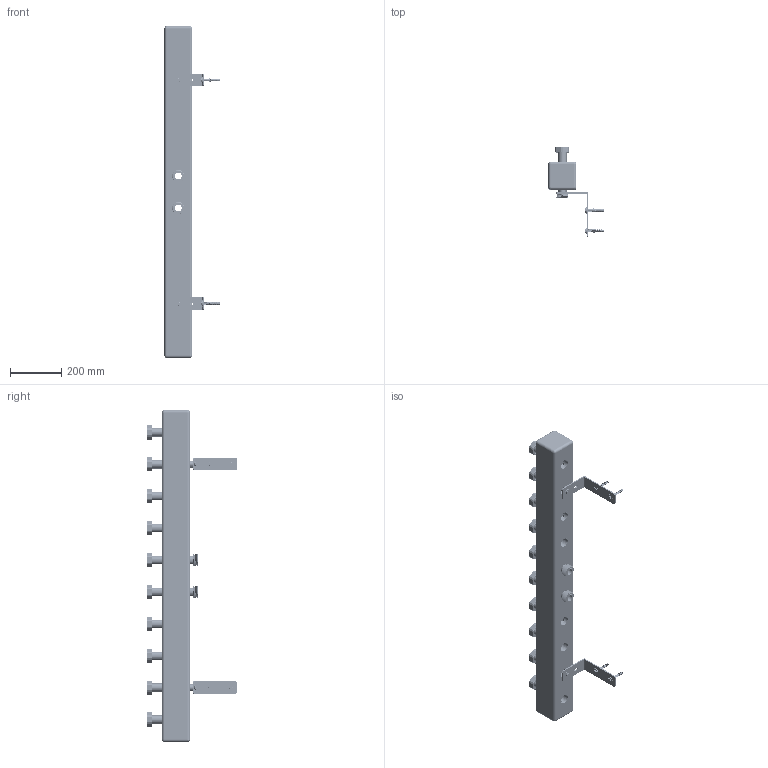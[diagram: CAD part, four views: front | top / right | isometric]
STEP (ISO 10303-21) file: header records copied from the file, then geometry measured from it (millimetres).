
FILE_DESCRIPTION((''),'2;1');
FILE_NAME('08_013_502_ASM','2021-04-14T',('Bial5'),('Audax d.o.o.'),'CREO PARAMETRIC BY PTC INC, 2017020','CREO PARAMETRIC BY PTC INC, 2017020','');
FILE_SCHEMA(('CONFIG_CONTROL_DESIGN'));
Length unit declared in the file: millimetre
Products named in the file (23): 08_013_011; 08_013_012; 08_013_004; 08_001_025; 08_001_006; 08_013_015; 08_013_020; 08_013_021; 08_001_017; 08_001_018; 08_001_038; 08_013_017; 08_001_033; DIN9021-8; SCREW_DIN_933-M8X25-8_8-A; GUMA_NOSILCA_M8; DIN571_8X60_CUZN; ZIDNI_VLOZEK_10; 08_001_033_SESTAVLJEN_ASM; 08_001_042; 08_001_044; 08_013_500_IZOLACIJA_ASM; 08_013_502_ASM
Assembly tree (73 placements, depth 3):
  08_013_502_ASM
    08_013_011
    08_013_012
    08_013_004
    08_001_025  x2
    08_001_006  x2
    08_013_015
    08_013_020  x5
    08_013_021  x5
    08_001_017  x10
    08_001_018  x10
    08_001_038  x4
    08_013_017  x6
    08_001_033_SESTAVLJEN_ASM  x2
      08_001_033
      DIN9021-8
      SCREW_DIN_933-M8X25-8_8-A
      GUMA_NOSILCA_M8
      DIN571_8X60_CUZN
      ZIDNI_VLOZEK_10
    08_013_500_IZOLACIJA_ASM
      08_001_042  x2
      08_001_044  x10
Bounding box: 216.91 x 354 x 1300 mm (x, y, z)
Volume: 11847758.9 mm3; surface area: 2422196.1 mm2
Topology: 80 solids, 82 shells, 4988 faces, 14172 edges, 9352 vertices
Faces by surface type: cylinder 2226, plane 1746, cone 836, torus 104, bspline 52, extrusion 16, sphere 8
Entity records: 52899 total; most frequent: CARTESIAN_POINT 21004, DIRECTION 6717, ORIENTED_EDGE 6660, EDGE_CURVE 3332, AXIS2_PLACEMENT_3D 2701, VERTEX_POINT 2188, CIRCLE 1398, EDGE_LOOP 1316
